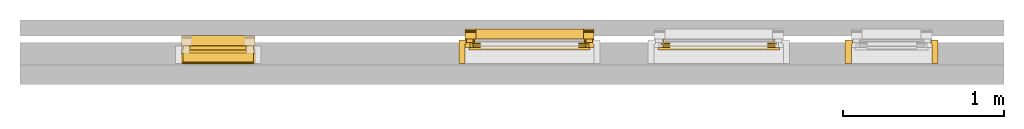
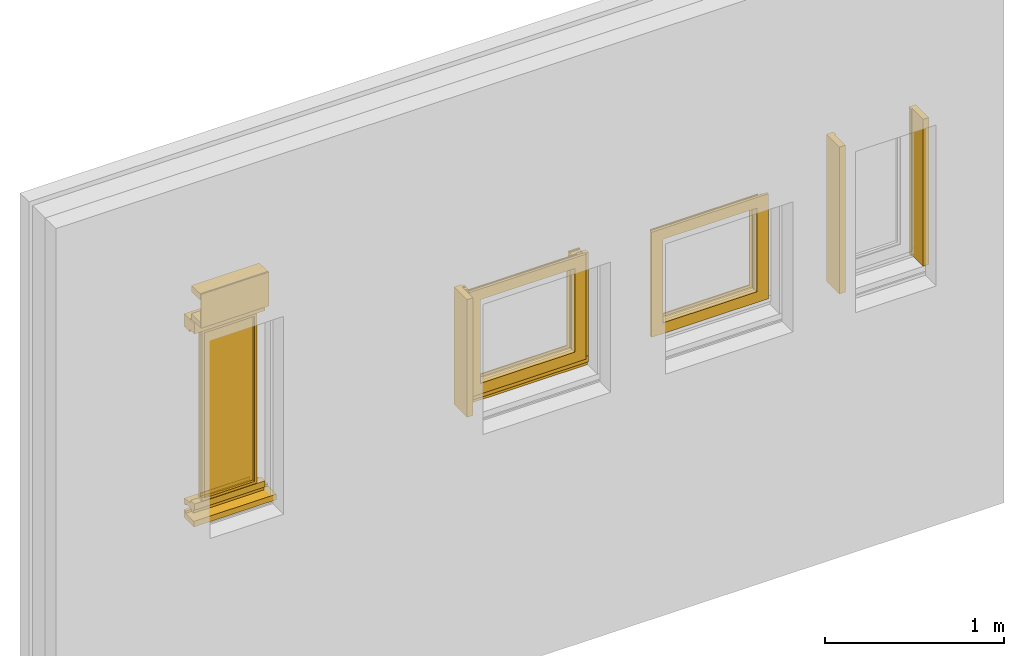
# One storey, part 2 of 4: 17 windows.
"""IFC2X3 building model written with IfcOpenShell, lengths in millimetres."""

from ifc_helpers import new_model, entity, si_unit, converted_unit, derived_unit, direction, frame, origin, origin_2d_with_axis, place, context, subcontext, project, spatial, polyline, rectangle, outline, extrude, faceted_brep, source, transform, mapped, material, type_object, type_shapes, element, save


model = new_model("IFC2X3")

# Units and contexts
model_context = context("Model", 3, precision=0.01, world=origin(), true_north=direction((6.12303176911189e-17, 1.0)))
body_context = subcontext(model_context, "Body", "Model", "MODEL_VIEW")
ifc_project = project(units=[si_unit("LENGTHUNIT", "METRE", prefix="MILLI"), si_unit("AREAUNIT", "SQUARE_METRE"), si_unit("VOLUMEUNIT", "CUBIC_METRE"), converted_unit("PLANEANGLEUNIT", "DEGREE", entity("IfcRatioMeasure", 0.0174532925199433), si_unit("PLANEANGLEUNIT", "RADIAN"), dimensions=[0, 0, 0, 0, 0, 0, 0]), si_unit("MASSUNIT", "GRAM", prefix="KILO"), derived_unit("MASSDENSITYUNIT", [(si_unit("MASSUNIT", "GRAM", prefix="KILO"), 1), (si_unit("LENGTHUNIT", "METRE"), -3)]), si_unit("TIMEUNIT", "SECOND"), si_unit("FREQUENCYUNIT", "HERTZ"), si_unit("THERMODYNAMICTEMPERATUREUNIT", "DEGREE_CELSIUS"), derived_unit("THERMALTRANSMITTANCEUNIT", [(si_unit("MASSUNIT", "GRAM", prefix="KILO"), 1), (si_unit("THERMODYNAMICTEMPERATUREUNIT", "KELVIN"), -1), (si_unit("TIMEUNIT", "SECOND"), -3)]), derived_unit("VOLUMETRICFLOWRATEUNIT", [(si_unit("LENGTHUNIT", "METRE"), 3), (si_unit("TIMEUNIT", "SECOND"), -1)]), si_unit("ELECTRICCURRENTUNIT", "AMPERE"), si_unit("ELECTRICVOLTAGEUNIT", "VOLT"), si_unit("POWERUNIT", "WATT"), si_unit("FORCEUNIT", "NEWTON", prefix="KILO"), si_unit("ILLUMINANCEUNIT", "LUX"), si_unit("LUMINOUSFLUXUNIT", "LUMEN"), si_unit("LUMINOUSINTENSITYUNIT", "CANDELA"), derived_unit("USERDEFINED", [(si_unit("MASSUNIT", "GRAM", prefix="KILO"), -1), (si_unit("LENGTHUNIT", "METRE"), -2), (si_unit("TIMEUNIT", "SECOND"), 3), (si_unit("LUMINOUSFLUXUNIT", "LUMEN"), 1)]), derived_unit("LINEARVELOCITYUNIT", [(si_unit("LENGTHUNIT", "METRE"), 1), (si_unit("TIMEUNIT", "SECOND"), -1)]), si_unit("PRESSUREUNIT", "PASCAL"), derived_unit("USERDEFINED", [(si_unit("LENGTHUNIT", "METRE"), -2), (si_unit("MASSUNIT", "GRAM", prefix="KILO"), 1), (si_unit("TIMEUNIT", "SECOND"), -2)])], contexts=[model_context])

# Site, building, storey
site_placement = place(None, origin())
site = spatial("IfcSite", under=ifc_project, at=site_placement, Name="Default", CompositionType="ELEMENT")
building_placement = place(site_placement, origin())
building = spatial("IfcBuilding", under=site, at=building_placement, CompositionType="ELEMENT")
storey_placement = place(building_placement, origin())
storey = spatial("IfcBuildingStorey", under=building, at=storey_placement, Name="Level 1", CompositionType="ELEMENT", Elevation=0.0)

# Windows
ifc_material_1 = material(Name="NLRS_i3_meranti_geschilderd_RAL7006")
window_style_1 = type_object("IfcWindowStyle", Name="bis-67x114", ConstructionType="NOTDEFINED", OperationType="NOTDEFINED", ParameterTakesPrecedence=False, Sizeable=False, material=ifc_material_1)
shared_shape_1 = source(origin(), body_context, "Body", "SweptSolid", [
    extrude(outline(polyline([(-13.0250000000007, -65.275), (25.2750000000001, -65.275), (25.2750000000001, -50.2750000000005), (10.2750000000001, -44.9749999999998), (10.2750000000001, 18.725), (25.2750000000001, 18.725), (25.2750000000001, 38.725), (0.275000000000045, 38.725), (0.275000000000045, 48.725), (-41.725, 48.725), (-41.7249999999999, 6.72500000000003), (-25.7249999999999, 6.72500000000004), (-13.0250000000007, -65.275)])), frame((-400.0, 65.275, 25.2750000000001), z_axis=(1.0, 0.0, 0.0), x_axis=(0.0, 0.0, -1.0)), (0.0, 0.0, 1.0), 800.0),
])
type_shapes(window_style_1, [shared_shape_1])
window_1_placement = place(storey_placement, frame((547.832854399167, 5914.39645578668, 1685.12752334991), z_axis=(0.0, 0.0, 1.0), x_axis=(-1.0, 0.0, 0.0)))
element("IfcWindow", 1, at=window_1_placement, inside=storey, type_object=window_style_1, material=ifc_material_1, Name="NLRS_30_WIN_onderdorpel_sh_gen_TOBA-JM:bis-67x114", ObjectType="NLRS_30_WIN_onderdorpel_sh_gen_TOBA-JM:bis-67x114", OverallHeight=67.0, OverallWidth=800.0, context=body_context, shape_type="MappedRepresentation", body=[
    mapped(shared_shape_1, transform((0.0, 0.0, 0.0), scale=1.0)),
])
window_style_2 = type_object("IfcWindowStyle", Name="dv-bis67x114", ConstructionType="NOTDEFINED", OperationType="NOTDEFINED", ParameterTakesPrecedence=False, Sizeable=False, material=ifc_material_1)
shared_shape_2 = source(origin(), body_context, "Body", "Brep", [
    faceted_brep([(50.0, 84.0, 750.0), (50.0, 62.0, 750.0), (50.0, 62.0, 733.0), (50.0, 62.0, 49.2361111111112), (50.0, 72.0, 51.0), (50.0, 72.0, 67.0), (50.0, 84.0, 67.0), (67.0, 62.0, 733.0), (67.0, 62.0, 49.2361111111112), (67.0, 20.0, 733.0), (67.0, 17.0, 739.0), (67.0, 10.0, 739.0), (67.0, 7.0, 733.0), (67.0, 0.0, 733.0), (67.0, 0.0, 38.3000000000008), (0.0, 0.0, 733.0), (0.0, 0.0, 38.3000000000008), (0.0, 62.0, 750.0), (0.0, 65.0, 750.0), (0.0, 65.0, 49.7652777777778), (0.0, 7.0, 733.0), (0.0, 10.0, 739.0), (0.0, 17.0, 739.0), (0.0, 20.0, 733.0), (0.0, 62.0, 733.0), (9.0, 65.0, 750.0), (9.0, 65.0, 49.7652777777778), (9.0, 84.0, 750.0), (9.0, 84.0, 67.0), (9.0, 72.0, 67.0), (9.0, 72.0, 51.0), (30.0, 84.0, 750.0), (30.0, 84.0, 770.0), (0.0, 84.0, 770.0), (0.0, 84.0, 67.0), (0.0, 114.0, 770.0), (0.0, 114.0, 67.0), (30.0, 114.0, 770.0), (30.0, 114.0, 67.0), (30.0, 84.0, 67.0)], [[[0, 1, 2, 3, 4, 5, 6]], [[2, 7, 8, 3]], [[7, 9, 10, 11, 12, 13, 14, 8]], [[13, 15, 16, 14]], [[17, 18, 19, 16, 15, 20, 21, 22, 23, 24]], [[18, 25, 26, 19]], [[25, 27, 28, 29, 30, 26]], [[27, 31, 32, 33, 34, 28]], [[33, 35, 36, 34]], [[35, 37, 38, 36]], [[30, 4, 3, 8, 14, 16, 19, 26]], [[4, 30, 29, 5]], [[5, 29, 28, 34, 36, 38, 39, 6]], [[31, 0, 6, 39]], [[37, 32, 31, 39, 38]], [[35, 33, 32, 37]], [[17, 1, 0, 31, 27, 25, 18]], [[1, 17, 24, 2]], [[23, 9, 7, 2, 24]], [[9, 23, 22, 10]], [[10, 22, 21, 11]], [[11, 21, 20, 12]], [[12, 20, 15, 13]]]),
])
type_shapes(window_style_2, [shared_shape_2])
window_2_placement = place(storey_placement, frame((947.832854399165, 5914.39645578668, 1685.12752334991), z_axis=(0.0, 0.0, 1.0), x_axis=(-1.0, 0.0, 0.0)))
element("IfcWindow", 2, at=window_2_placement, inside=storey, type_object=window_style_2, material=ifc_material_1, Name="NLRS_30_WIN_zijstijl_sh_gen_TOBA-JM:dv-bis67x114", ObjectType="NLRS_30_WIN_zijstijl_sh_gen_TOBA-JM:dv-bis67x114", OverallHeight=761.699999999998, OverallWidth=67.0000000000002, context=body_context, shape_type="MappedRepresentation", body=[
    mapped(shared_shape_2, transform((0.0, 0.0, 0.0), scale=1.0)),
])
window_style_3 = type_object("IfcWindowStyle", Name="dv-bis67x114", ConstructionType="NOTDEFINED", OperationType="NOTDEFINED", ParameterTakesPrecedence=False, Sizeable=False, material=ifc_material_1)
shared_shape_3 = source(origin(), body_context, "Body", "Brep", [
    faceted_brep([(50.0, -84.0, 750.0), (50.0, -84.0, 67.0), (50.0, -72.0, 67.0), (50.0, -72.0, 51.0), (50.0, -62.0, 49.2361111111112), (50.0, -62.0, 733.0), (50.0, -62.0, 750.0), (67.0, -62.0, 49.2361111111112), (67.0, -62.0, 733.0), (67.0, 0.0, 38.3000000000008), (67.0, 0.0, 733.0), (67.0, -7.0, 733.0), (67.0, -10.0, 739.0), (67.0, -17.0, 739.0), (67.0, -20.0, 733.0), (0.0, 0.0, 38.3000000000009), (0.0, 0.0, 733.0), (0.0, -62.0, 750.0), (0.0, -62.0, 733.0), (0.0, -20.0, 733.0), (0.0, -17.0, 739.0), (0.0, -10.0, 739.0), (0.0, -7.0, 733.0), (0.0, -65.0, 49.7652777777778), (0.0, -65.0, 750.0), (9.0, -65.0, 49.7652777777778), (9.0, -65.0, 750.0), (9.0, -72.0, 51.0), (9.0, -72.0, 67.0), (9.0, -84.0, 67.0), (9.0, -84.0, 750.0), (0.0, -84.0, 67.0), (0.0, -84.0, 770.0), (30.0, -84.0, 770.0), (30.0, -84.0, 750.0), (0.0, -114.0, 67.0), (0.0, -114.0, 770.0), (30.0, -114.0, 67.0), (30.0, -114.0, 770.0), (30.0, -84.0, 67.0)], [[[0, 1, 2, 3, 4, 5, 6]], [[5, 4, 7, 8]], [[8, 7, 9, 10, 11, 12, 13, 14]], [[10, 9, 15, 16]], [[17, 18, 19, 20, 21, 22, 16, 15, 23, 24]], [[24, 23, 25, 26]], [[26, 25, 27, 28, 29, 30]], [[30, 29, 31, 32, 33, 34]], [[32, 31, 35, 36]], [[36, 35, 37, 38]], [[27, 25, 23, 15, 9, 7, 4, 3]], [[3, 2, 28, 27]], [[2, 1, 39, 37, 35, 31, 29, 28]], [[34, 39, 1, 0]], [[38, 37, 39, 34, 33]], [[36, 38, 33, 32]], [[17, 24, 26, 30, 34, 0, 6]], [[6, 5, 18, 17]], [[19, 18, 5, 8, 14]], [[14, 13, 20, 19]], [[13, 12, 21, 20]], [[12, 11, 22, 21]], [[11, 10, 16, 22]]]),
])
type_shapes(window_style_3, [shared_shape_3])
window_3_placement = place(storey_placement, frame((147.832854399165, 5914.39645578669, 1685.1275233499)))
element("IfcWindow", 3, at=window_3_placement, inside=storey, type_object=window_style_3, material=ifc_material_1, Name="NLRS_30_WIN_zijstijl_sh_gen_TOBA-JM:dv-bis67x114", ObjectType="NLRS_30_WIN_zijstijl_sh_gen_TOBA-JM:dv-bis67x114", OverallHeight=761.699999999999, OverallWidth=67.0000000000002, context=body_context, shape_type="MappedRepresentation", body=[
    mapped(shared_shape_3, transform((0.0, 0.0, 0.0), scale=1.0)),
])
ifc_material_2 = material(Name="NLRS_i3_hout_vuren_generiek")
window_style_4 = type_object("IfcWindowStyle", Name="ok-bk-recht-45x145", ConstructionType="NOTDEFINED", OperationType="NOTDEFINED", ParameterTakesPrecedence=False, Sizeable=False, material=ifc_material_2)
shared_shape_4 = source(origin(), body_context, "Body", "SweptSolid", [
    extrude(outline(polyline([(-27.6666666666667, -88.3333333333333), (10.3333333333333, -88.3333333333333), (10.3333333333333, 31.6666666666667), (17.3333333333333, 31.6666666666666), (17.3333333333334, 56.6666666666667), (-27.6666666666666, 56.6666666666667), (-27.6666666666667, -88.3333333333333)])), frame((-10.3333333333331, -56.6666666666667, 0.0)), (0.0, 0.0, 1.0), 800.000000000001),
])
type_shapes(window_style_4, [shared_shape_4])
window_4_placement = place(storey_placement, frame((147.832854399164, 5846.3964557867, 1685.1275233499)))
element("IfcWindow", 4, at=window_4_placement, inside=storey, type_object=window_style_4, material=ifc_material_2, Name="NLRS_30_WIN_spouwlat-zijstijll_sh_gen_TOBA-JM:ok-bk-recht-45x145", ObjectType="NLRS_30_WIN_spouwlat-zijstijll_sh_gen_TOBA-JM:ok-bk-recht-45x145", OverallHeight=800.000000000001, OverallWidth=105.0, context=body_context, shape_type="MappedRepresentation", body=[
    mapped(shared_shape_4, transform((0.0, 0.0, 0.0), scale=1.0)),
])
ifc_material_3 = material(Name="NLRS_i3_meranti_draaiende_delen_geschilderd_creme_RAL7006")
window_style_5 = type_object("IfcWindowStyle", Name="68x90", ConstructionType="NOTDEFINED", OperationType="NOTDEFINED", ParameterTakesPrecedence=False, Sizeable=False, material=ifc_material_3)
shared_shape_5 = source(origin(), body_context, "Body", "Brep", [
    faceted_brep([(376.0, 68.0, 709.0), (376.0, 52.0, 709.0), (376.0, 52.0, -6.0), (376.0, 68.0, -6.0), (376.0, 68.0, -5.0), (376.0, 68.0, 84.0), (-376.0, 52.0, -6.0), (-376.0, 52.0, 709.0), (-358.0, 52.0, 691.0), (358.0, 52.0, 691.0), (358.0, 52.0, 12.0), (-358.0, 52.0, 12.0), (-376.0, 68.0, -6.0), (-376.0, 68.0, 709.0), (-376.0, 68.0, -5.0), (-376.0, 68.0, 84.0), (303.0, 68.0, 636.0), (-303.0, 68.0, 636.0), (-303.0, 68.0, 67.0), (303.0, 68.0, 67.0), (303.0, 13.0, 636.0), (303.0, 13.0, 67.0), (-303.0, 13.0, 67.0), (-303.0, 13.0, 636.0), (286.0, 13.0, 619.0), (-286.0, 13.0, 619.0), (-286.0, 13.0, 84.0), (286.0, 13.0, 84.0), (290.0, 0.0, 623.0), (290.0, 0.0, 80.0), (-290.0, 0.0, 80.0), (346.0, 0.0, 27.0), (346.0, 0.0, 679.0), (-346.0, 0.0, 679.0), (-346.0, 0.0, 27.0), (-290.0, 0.0, 623.0), (346.0, 5.0, 679.0), (346.0, 4.0, 27.0), (346.0, 4.0, 15.0), (346.0, 5.0, 15.0), (-346.0, 4.0, 27.0), (-346.0, 4.0, 15.0), (-342.0, 9.0, 15.0), (342.0, 9.0, 15.0), (342.0, 6.0, 15.0), (-346.0, 5.0, 15.0), (-342.0, 6.0, 15.0), (342.0, 6.0, 675.0), (342.0, 16.0, 675.0), (342.0, 10.0, 19.0), (342.0, 16.0, 19.0), (-342.0, 10.0, 19.0), (-342.0, 16.0, 19.0), (346.0, 17.0, 679.0), (346.0, 17.0, 15.0), (-346.0, 17.0, 15.0), (346.0, 22.0, 679.0), (346.0, 22.0, 15.0), (-346.0, 22.0, 15.0), (-338.0, 22.0, 23.0), (338.0, 22.0, 23.0), (338.0, 22.0, 671.0), (-338.0, 22.0, 671.0), (-346.0, 22.0, 679.0), (338.0, 27.0, 671.0), (338.0, 27.0, 23.0), (-338.0, 27.0, 23.0), (358.0, 27.0, 12.0), (358.0, 27.0, 691.0), (-358.0, 27.0, 691.0), (-358.0, 27.0, 12.0), (-338.0, 27.0, 671.0), (358.0, 34.5, 691.0), (358.0, 34.5000000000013, 12.0), (-358.0, 34.5000000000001, 12.0), (-355.500000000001, 34.5, 14.5), (355.500000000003, 34.5000000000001, 14.5), (355.500000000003, 34.5, 688.499999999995), (-355.5, 34.5, 688.499999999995), (-358.0, 34.5, 691.0), (355.500000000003, 36.5, 688.499999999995), (355.500000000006, 36.5000000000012, 14.5), (-355.500000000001, 36.5000000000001, 14.5), (-346.0, 36.5, 24.0), (346.0, 36.5000000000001, 24.0), (346.0, 36.5, 679.0), (-346.0, 36.5, 679.0), (-355.5, 36.5, 688.499999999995), (346.0, 49.0, 679.0), (346.0, 49.0, 24.0), (-346.0, 49.0, 24.0), (355.500000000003, 49.0, 14.5), (355.500000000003, 49.0, 688.499999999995), (-355.500000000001, 49.0, 688.499999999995), (-355.500000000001, 49.0, 14.5), (-346.0, 49.0, 679.0), (355.500000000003, 51.0, 688.499999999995), (355.500000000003, 51.0, 14.5), (-355.500000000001, 51.0, 14.5), (358.0, 51.0, 12.0), (358.0, 51.0, 691.0), (-358.0, 51.0, 691.0), (-358.0, 51.0, 12.0), (-355.500000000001, 51.0, 688.499999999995), (-346.0, 5.0, 679.0), (-342.0, 6.0, 675.0), (-342.0, 16.0, 675.0), (-346.0, 17.0, 679.0)], [[[0, 1, 2, 3, 4, 5]], [[6, 2, 1, 7], [8, 9, 10, 11]], [[6, 12, 3, 2]], [[13, 0, 5, 4, 3, 12, 14, 15], [16, 17, 18, 19]], [[20, 16, 19, 21]], [[19, 18, 22, 21]], [[23, 20, 21, 22], [24, 25, 26, 27]], [[28, 24, 27, 29]], [[27, 26, 30, 29]], [[31, 32, 33, 34], [35, 28, 29, 30]], [[36, 32, 31, 37, 38, 39]], [[31, 34, 40, 37]], [[41, 38, 37, 40]], [[42, 43, 44, 39, 38, 41, 45, 46]], [[47, 36, 39, 44]], [[48, 47, 44, 43, 49, 50]], [[51, 49, 43, 42]], [[52, 50, 49, 51]], [[53, 48, 50, 54]], [[55, 54, 50, 52]], [[56, 53, 54, 57]], [[58, 57, 54, 55]], [[59, 60, 61, 62], [58, 63, 56, 57]], [[64, 61, 60, 65]], [[66, 65, 60, 59]], [[67, 68, 69, 70], [66, 71, 64, 65]], [[72, 68, 67, 73]], [[74, 73, 67, 70]], [[75, 76, 77, 78], [74, 79, 72, 73]], [[80, 77, 76, 81]], [[82, 81, 76, 75]], [[83, 84, 85, 86], [82, 87, 80, 81]], [[88, 85, 84, 89]], [[90, 89, 84, 83]], [[91, 92, 93, 94], [90, 95, 88, 89]], [[96, 92, 91, 97]], [[98, 97, 91, 94]], [[99, 100, 101, 102], [98, 103, 96, 97]], [[9, 100, 99, 10]], [[11, 10, 99, 102]], [[102, 101, 8, 11]], [[6, 7, 13, 15, 14, 12]], [[17, 23, 22, 18]], [[25, 35, 30, 26]], [[33, 104, 45, 41, 40, 34]], [[45, 104, 105, 46]], [[46, 105, 106, 52, 51, 42]], [[52, 106, 107, 55]], [[55, 107, 63, 58]], [[59, 62, 71, 66]], [[70, 69, 79, 74]], [[75, 78, 87, 82]], [[83, 86, 95, 90]], [[94, 93, 103, 98]], [[1, 0, 13, 7]], [[16, 20, 23, 17]], [[24, 28, 35, 25]], [[32, 36, 104, 33]], [[36, 47, 105, 104]], [[47, 48, 106, 105]], [[48, 53, 107, 106]], [[53, 56, 63, 107]], [[61, 64, 71, 62]], [[68, 72, 79, 69]], [[77, 80, 87, 78]], [[85, 88, 95, 86]], [[92, 96, 103, 93]], [[100, 9, 8, 101]]], outer=[[True], [True, False], [True], [True, False], [True], [True], [True, False], [True], [True], [True, False], [True], [True], [True], [True], [True], [True], [True], [True], [True], [True], [True], [True], [False, True], [True], [True], [True, False], [True], [True], [False, True], [True], [True], [False, True], [True], [True], [True, False], [True], [True], [True, False], [True], [True], [True], [True], [True], [True], [True], [True], [True], [True], [True], [True], [True], [True], [True], [True], [True], [True], [True], [True], [True], [True], [True], [True], [True], [True], [True], [True], [True], [True]]),
])
type_shapes(window_style_5, [shared_shape_5])
for number, where, z_axis, x_axis, name in (
    (5, (547.832854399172, 5852.39645578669, 1752.1275233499), (0.0, 0.0, 1.0), (-1.0, 0.0, 0.0), "NLRS_30_WIN_raamhout_sh_gen_TOBA-JM:68x90"),
    (6, (1720.90306251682, 5852.39645578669, 1752.12752334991), (0.0, 0.0, 1.0), (-1.0, 0.0, 0.0), "NLRS_30_WIN_raamhout_sh_gen_TOBA-JM:68x90"),
):
    element("IfcWindow", number, at=place(storey_placement, frame(where, z_axis=z_axis, x_axis=x_axis)), inside=storey, type_object=window_style_5, material=ifc_material_3, Name=name, ObjectType="NLRS_30_WIN_raamhout_sh_gen_TOBA-JM:68x90", OverallHeight=714.999999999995, OverallWidth=752.000000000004, context=body_context, shape_type="MappedRepresentation", body=[
        mapped(shared_shape_5, transform((0.0, 0.0, 0.0), scale=1.0)),
    ])
window_style_6 = type_object("IfcWindowStyle", Name="ok-bk-recht-45x145", ConstructionType="NOTDEFINED", OperationType="NOTDEFINED", ParameterTakesPrecedence=False, Sizeable=False, material=ifc_material_2)
shared_shape_6 = source(origin(), body_context, "Body", "SweptSolid", [
    extrude(outline(polyline([(-27.6666666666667, -88.3333333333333), (10.3333333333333, -88.3333333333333), (10.3333333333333, 31.6666666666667), (17.3333333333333, 31.6666666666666), (17.3333333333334, 56.6666666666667), (-27.6666666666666, 56.6666666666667), (-27.6666666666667, -88.3333333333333)])), frame((-10.3333333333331, -56.6666666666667, 0.0)), (0.0, 0.0, 1.0), 1000.0),
])
type_shapes(window_style_6, [shared_shape_6])
window_5_placement = place(storey_placement, frame((2542.97327063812, 5846.39645578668, 1685.12752334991)))
element("IfcWindow", 7, at=window_5_placement, inside=storey, type_object=window_style_6, material=ifc_material_2, Name="NLRS_30_WIN_spouwlat-zijstijll_sh_gen_TOBA-JM:ok-bk-recht-45x145", ObjectType="NLRS_30_WIN_spouwlat-zijstijll_sh_gen_TOBA-JM:ok-bk-recht-45x145", OverallHeight=1000.0, OverallWidth=105.0, context=body_context, shape_type="MappedRepresentation", body=[
    mapped(shared_shape_6, transform((0.0, 0.0, 0.0), scale=1.0)),
])
window_style_7 = type_object("IfcWindowStyle", Name="ok-bk-recht-45x145", ConstructionType="NOTDEFINED", OperationType="NOTDEFINED", ParameterTakesPrecedence=False, Sizeable=False, material=ifc_material_2)
shared_shape_7 = source(origin(), body_context, "Body", "SweptSolid", [
    extrude(outline(polyline([(-88.3333333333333, -27.6666666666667), (56.6666666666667, -27.6666666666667), (56.6666666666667, 17.3333333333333), (31.6666666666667, 17.3333333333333), (31.6666666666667, 10.3333333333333), (-88.3333333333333, 10.3333333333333), (-88.3333333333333, -27.6666666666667)])), frame((-10.3333333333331, 56.6666666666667, 0.0), z_axis=(0.0, 0.0, 1.0), x_axis=(0.0, -1.0, 0.0)), (0.0, 0.0, 1.0), 999.999999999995),
])
type_shapes(window_style_7, [shared_shape_7])
window_6_placement = place(storey_placement, frame((3042.97327063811, 5846.39645578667, 1685.12752334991), z_axis=(0.0, 0.0, 1.0), x_axis=(-1.0, 0.0, 0.0)))
element("IfcWindow", 8, at=window_6_placement, inside=storey, type_object=window_style_7, material=ifc_material_2, Name="NLRS_30_WIN_spouwlat-zijstijll_sh_gen_TOBA-JM:ok-bk-recht-45x145", ObjectType="NLRS_30_WIN_spouwlat-zijstijll_sh_gen_TOBA-JM:ok-bk-recht-45x145", OverallHeight=999.999999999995, OverallWidth=105.0, context=body_context, shape_type="MappedRepresentation", body=[
    mapped(shared_shape_7, transform((0.0, 0.0, 0.0), scale=1.0)),
])
window_style_8 = type_object("IfcWindowStyle", Name="Type", ConstructionType="NOTDEFINED", OperationType="NOTDEFINED", ParameterTakesPrecedence=False, Sizeable=False, material=ifc_material_1)
shared_shape_8 = source(origin(), body_context, "Body", "SweptSolid", [
    extrude(outline(polyline([(-13.0250000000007, -65.275), (25.2750000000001, -65.275), (25.2750000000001, -50.2750000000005), (10.2750000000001, -44.9749999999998), (10.2750000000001, 18.725), (25.2750000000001, 18.725), (25.2750000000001, 38.725), (0.275000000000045, 38.725), (0.275000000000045, 48.725), (-41.725, 48.725), (-41.7249999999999, 6.72500000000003), (-25.7249999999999, 6.72500000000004), (-13.0250000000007, -65.275)])), frame((-227.5, 65.275, 25.2750000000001), z_axis=(1.0, 0.0, 0.0), x_axis=(0.0, 0.0, -1.0)), (0.0, 0.0, 1.0), 455.0),
])
type_shapes(window_style_8, [shared_shape_8])
window_7_placement = place(storey_placement, frame((-1382.88435228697, 5876.39645578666, 1592.60000000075), z_axis=(0.0, 0.0, 1.0), x_axis=(-1.0, 0.0, 0.0)))
element("IfcWindow", 9, at=window_7_placement, inside=storey, type_object=window_style_8, material=ifc_material_1, Name="NLRS_30_MC_onderdorpel_bis_67x114:Type", ObjectType="NLRS_30_MC_onderdorpel_bis_67x114:Type", OverallHeight=67.0, OverallWidth=455.0, context=body_context, shape_type="MappedRepresentation", body=[
    mapped(shared_shape_8, transform((0.0, 0.0, 0.0), scale=1.0)),
])
window_style_9 = type_object("IfcWindowStyle", Name="Type", ConstructionType="NOTDEFINED", OperationType="NOTDEFINED", ParameterTakesPrecedence=False, Sizeable=False, material=ifc_material_1)
shared_shape_9 = source(origin(), body_context, "Body", "SweptSolid", [
    extrude(outline(polyline([(44.1004646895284, -13.1428571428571), (49.1004646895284, -13.1428571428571), (45.6939590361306, 51.8571428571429), (-40.8995353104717, 51.8571428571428), (-40.8995353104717, 44.8571428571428), (-34.8995353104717, 41.8571428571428), (-34.8995353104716, 34.8571428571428), (-40.8995353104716, 31.8571428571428), (-40.8995353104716, -10.1428571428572), (-23.8995353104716, -10.1428571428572), (-23.8995353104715, -62.1428571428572), (49.1004646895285, -62.1428571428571), (49.1004646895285, -43.1428571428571), (44.1004646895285, -43.1428571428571), (44.1004646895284, -13.1428571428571)])), frame((-227.5, 51.8571428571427, -49.1004646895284), z_axis=(1.0, 0.0, 0.0), x_axis=(0.0, 0.0, 1.0)), (0.0, 0.0, 1.0), 455.0),
])
type_shapes(window_style_9, [shared_shape_9])
window_8_placement = place(storey_placement, frame((-1382.88435228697, 5876.39645578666, 2890.0), z_axis=(0.0, 0.0, 1.0), x_axis=(-1.0, 0.0, 0.0)))
element("IfcWindow", 10, at=window_8_placement, inside=storey, type_object=window_style_9, material=ifc_material_1, Name="NLRS_30_MC_bovendorpel_vg_bis_90x114:Type", ObjectType="NLRS_30_MC_bovendorpel_vg_bis_90x114:Type", OverallHeight=90.0, OverallWidth=455.0, context=body_context, shape_type="MappedRepresentation", body=[
    mapped(shared_shape_9, transform((0.0, 0.0, 0.0), scale=1.0)),
])
window_style_10 = type_object("IfcWindowStyle", Name="Type", ConstructionType="NOTDEFINED", OperationType="NOTDEFINED", ParameterTakesPrecedence=False, Sizeable=False, material=ifc_material_2)
shared_shape_10 = source(origin(), body_context, "Body", "SweptSolid", [
    extrude(outline(polyline([(7.66666666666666, 24.0), (22.6666666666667, 24.0), (22.6666666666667, 43.0), (-30.3333333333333, 43.0), (-30.3333333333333, -67.0), (7.66666666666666, -67.0), (7.66666666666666, 24.0)])), frame((-265.500000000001, 43.0, -7.66666666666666), z_axis=(1.0, 0.0, 0.0), x_axis=(0.0, 0.0, 1.0)), (0.0, 0.0, 1.0), 531.000000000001),
])
type_shapes(window_style_10, [shared_shape_10])
window_9_placement = place(storey_placement, frame((-1382.88435228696, 5811.39645578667, 1592.60000000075), z_axis=(0.0, 0.0, 1.0), x_axis=(-1.0, 0.0, 0.0)))
element("IfcWindow", 11, at=window_9_placement, inside=storey, type_object=window_style_10, material=ifc_material_2, Name="NLRS_30_MC_spouwlat_onderdorpel_bis_53x110:Type", ObjectType="NLRS_30_MC_spouwlat_onderdorpel_bis_53x110:Type", OverallHeight=53.0, OverallWidth=531.000000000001, context=body_context, shape_type="MappedRepresentation", body=[
    mapped(shared_shape_10, transform((0.0, 0.0, 0.0), scale=1.0)),
])
window_style_11 = type_object("IfcWindowStyle", Name="Type", ConstructionType="NOTDEFINED", OperationType="NOTDEFINED", ParameterTakesPrecedence=False, Sizeable=False, material=ifc_material_2)
shared_shape_11 = source(origin(), body_context, "Body", "SweptSolid", [
    extrude(outline(polyline([(-9.33333333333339, -57.3333333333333), (23.6666666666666, -57.3333333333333), (23.6666666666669, 43.6666666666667), (-14.3333333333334, 43.6666666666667), (-14.3333333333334, 13.6666666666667), (-9.33333333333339, 13.6666666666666), (-9.33333333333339, -57.3333333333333)])), frame((-218.500000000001, 43.6666666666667, 9.33333333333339), z_axis=(1.0, 0.0, 0.0), x_axis=(0.0, 0.0, 1.0)), (0.0, 0.0, 1.0), 437.0),
])
type_shapes(window_style_11, [shared_shape_11])
window_10_placement = place(storey_placement, frame((-1382.88435228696, 5811.39645578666, 2890.0), z_axis=(0.0, 0.0, 1.0), x_axis=(-1.0, 0.0, 0.0)))
element("IfcWindow", 12, at=window_10_placement, inside=storey, type_object=window_style_11, material=ifc_material_2, Name="NLRS_30_MC_spouwlat_bovendorpel_bis_38x101:Type", ObjectType="NLRS_30_MC_spouwlat_bovendorpel_bis_38x101:Type", OverallHeight=38.0000000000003, OverallWidth=437.0, context=body_context, shape_type="MappedRepresentation", body=[
    mapped(shared_shape_11, transform((0.0, 0.0, 0.0), scale=1.0)),
])
ifc_material_4 = material(Name="NLRS_f7_gips_vertikaal")
window_style_12 = type_object("IfcWindowStyle", Name="Type", ConstructionType="NOTDEFINED", OperationType="NOTDEFINED", ParameterTakesPrecedence=False, Sizeable=False, material=ifc_material_4)
shared_shape_12 = source(origin(), body_context, "Body", "SweptSolid", [
    extrude(rectangle(XDim=9.0, YDim=436.999999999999, at=origin_2d_with_axis()), frame((0.0, -4.5, 0.0), z_axis=(0.0, 0.0, 1.0), x_axis=(0.0, 1.0, 0.0)), (0.0, 0.0, 1.0), 229.999999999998),
])
type_shapes(window_style_12, [shared_shape_12])
window_11_placement = place(storey_placement, frame((-1382.88435228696, 5710.39645578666, 2890.0)))
element("IfcWindow", 13, at=window_11_placement, inside=storey, type_object=window_style_12, material=ifc_material_4, Name="NLRS_30_MC_aftimmering_rekje:Type", ObjectType="NLRS_30_MC_aftimmering_rekje:Type", OverallHeight=229.999999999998, OverallWidth=437.0, context=body_context, shape_type="MappedRepresentation", body=[
    mapped(shared_shape_12, transform((0.0, 0.0, 0.0), scale=1.0)),
])
window_style_13 = type_object("IfcWindowStyle", Name="Type", ConstructionType="NOTDEFINED", OperationType="NOTDEFINED", ParameterTakesPrecedence=False, Sizeable=False, material=ifc_material_2)
shared_shape_13 = source(origin(), body_context, "Body", "SweptSolid", [
    extrude(outline(polyline([(-21.1896921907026, -50.5), (23.8362850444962, -50.5), (18.5430993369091, 50.5), (-21.1896921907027, 50.5), (-21.1896921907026, -50.5)])), frame((-218.500000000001, 50.5, 21.1896921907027), z_axis=(1.0, 0.0, 0.0), x_axis=(0.0, 0.0, 1.0)), (0.0, 0.0, 1.0), 437.0),
])
type_shapes(window_style_13, [shared_shape_13])
window_12_placement = place(storey_placement, frame((-1382.88435228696, 5811.39645578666, 3075.0), z_axis=(0.0, 0.0, 1.0), x_axis=(-1.0, 0.0, 0.0)))
element("IfcWindow", 14, at=window_12_placement, inside=storey, type_object=window_style_13, material=ifc_material_2, Name="NLRS_30_MC_spouwlat_bovendorpel_boven_rekje_bis_45x101:Type", ObjectType="NLRS_30_MC_spouwlat_bovendorpel_boven_rekje_bis_45x101:Type", OverallHeight=45.0259772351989, OverallWidth=437.0, context=body_context, shape_type="MappedRepresentation", body=[
    mapped(shared_shape_13, transform((0.0, 0.0, 0.0), scale=1.0)),
])
window_style_14 = type_object("IfcWindowStyle", Name="type", ConstructionType="NOTDEFINED", OperationType="NOTDEFINED", ParameterTakesPrecedence=False, Sizeable=False, material=ifc_material_1)
shared_shape_14 = source(origin(), body_context, "Body", "SweptSolid", [
    extrude(outline(polyline([(-578.699999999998, -177.500000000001), (578.699999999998, -177.500000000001), (578.699999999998, 177.500000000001), (-578.699999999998, 177.500000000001), (-578.699999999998, -177.500000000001)]), holes=[polyline([(561.699999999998, -160.500000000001), (-561.699999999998, -160.500000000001), (-561.699999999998, 160.500000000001), (561.699999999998, 160.500000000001), (561.699999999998, -160.500000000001)])]), frame((0.0, 32.0, 578.699999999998), z_axis=(0.0, 1.0, 0.0), x_axis=(0.0, 0.0, -1.0)), (0.0, 0.0, 1.0), 17.0),
])
type_shapes(window_style_14, [shared_shape_14])
window_13_placement = place(storey_placement, frame((-1382.88435228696, 5814.39645578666, 1659.60000000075), z_axis=(0.0, 0.0, 1.0), x_axis=(-1.0, 0.0, 0.0)))
element("IfcWindow", 15, at=window_13_placement, inside=storey, type_object=window_style_14, material=ifc_material_1, Name="NLRS_30_MC_glaslat_vast_17x17:type", ObjectType="NLRS_30_MC_glaslat_vast_17x17:type", OverallHeight=1157.4, OverallWidth=355.000000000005, context=body_context, shape_type="MappedRepresentation", body=[
    mapped(shared_shape_14, transform((0.0, 0.0, 0.0), scale=1.0)),
])
ifc_material_5 = material(Name="NLRS_h4_aluminum_geanodizeerd_RAL7006")
window_style_15 = type_object("IfcWindowStyle", Name="type", ConstructionType="NOTDEFINED", OperationType="NOTDEFINED", ParameterTakesPrecedence=False, Sizeable=False, material=ifc_material_5)
shared_shape_15 = source(origin(), body_context, "Body", "SweptSolid", [
    extrude(outline(polyline([(-6.11184172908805, -13.3380952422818), (-4.11184172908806, -13.3380952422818), (-4.11184172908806, -9.33809524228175), (0.413533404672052, -9.33809524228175), (0.413533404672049, -12.8380952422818), (3.91353340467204, -12.8380952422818), (3.91353340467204, -11.3380952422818), (1.91353340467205, -11.3380952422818), (1.91353340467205, -6.83809524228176), (3.91353340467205, -6.83809524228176), (3.91353340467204, -7.83809524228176), (4.91353340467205, -7.83809524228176), (4.91353340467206, -6.83809524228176), (16.413533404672, -6.83809524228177), (16.413533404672, -4.83809524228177), (0.413533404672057, -4.83809524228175), (0.413533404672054, -7.83809524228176), (-4.11184172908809, -7.83809524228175), (-4.11184172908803, 11.0190476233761), (-2.61184172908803, 11.0190476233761), (-2.61184172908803, 13.0190476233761), (-3.61184172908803, 13.0190476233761), (-3.61184172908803, 12.1619047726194), (-5.11184172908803, 12.5904762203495), (-5.11184172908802, 14.5904762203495), (-3.61184172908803, 15.0190476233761), (-3.61184172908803, 14.1619047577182), (-2.61184172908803, 14.1619047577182), (-2.61184172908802, 16.1619047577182), (-6.11184172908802, 15.1619047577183), (-6.11184172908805, -13.3380952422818)])), frame((-160.499999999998, 6.11184172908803, 7.83809524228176), z_axis=(1.0, 0.0, 0.0), x_axis=(0.0, 1.0, 0.0)), (0.0, 0.0, 1.0), 320.999999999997),
])
type_shapes(window_style_15, [shared_shape_15])
window_14_placement = place(storey_placement, frame((-1382.88435228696, 5814.39645578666, 1659.60000000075), z_axis=(0.0, 0.0, 1.0), x_axis=(-1.0, 0.0, 0.0)))
element("IfcWindow", 16, at=window_14_placement, inside=storey, type_object=window_style_15, material=ifc_material_5, Name="NLRS_30_MC_beglazingsprofiel_aluminium:type", ObjectType="NLRS_30_MC_beglazingsprofiel_aluminium:type", OverallHeight=1162.89999999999, OverallWidth=355.000000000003, context=body_context, shape_type="MappedRepresentation", body=[
    mapped(shared_shape_15, transform((0.0, 0.0, 0.0), scale=1.0)),
])
ifc_material_6 = material(Name="NLRS_o2_glas_mat")
window_style_16 = type_object("IfcWindowStyle", Name="type", ConstructionType="NOTDEFINED", OperationType="NOTDEFINED", ParameterTakesPrecedence=False, Sizeable=False, material=ifc_material_6)
shared_shape_16 = source(origin(), body_context, "Body", "SweptSolid", [
    extrude(rectangle(XDim=23.0000000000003, YDim=346.999999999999, at=origin_2d_with_axis()), frame((0.0, 15.5000000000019, 7.0), z_axis=(0.0, 0.0, 1.0), x_axis=(0.0, -1.0, 0.0)), (0.0, 0.0, 1.0), 1146.4),
])
type_shapes(window_style_16, [shared_shape_16])
window_15_placement = place(storey_placement, frame((-1382.88435228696, 5814.39645578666, 1659.60000000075), z_axis=(0.0, 0.0, 1.0), x_axis=(-1.0, 0.0, 0.0)))
element("IfcWindow", 17, at=window_15_placement, inside=storey, type_object=window_style_16, material=ifc_material_6, Name="NLRS_30_MC_glas_isolerend_vast:type", ObjectType="NLRS_30_MC_glas_isolerend_vast:type", OverallHeight=1157.39999999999, OverallWidth=355.000000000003, context=body_context, shape_type="MappedRepresentation", body=[
    mapped(shared_shape_16, transform((0.0, 0.0, 0.0), scale=1.0)),
])

save(model, "model.ifc")
